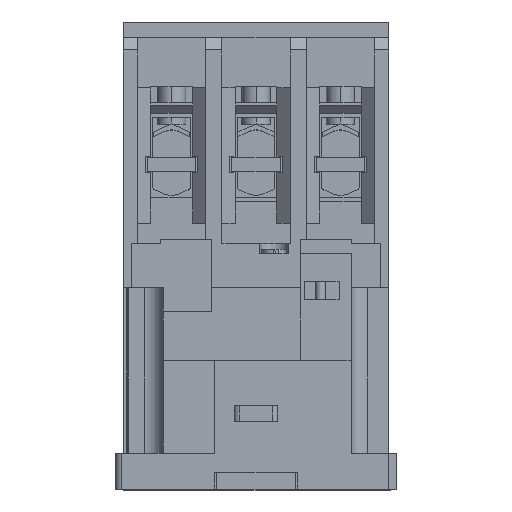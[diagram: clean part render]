
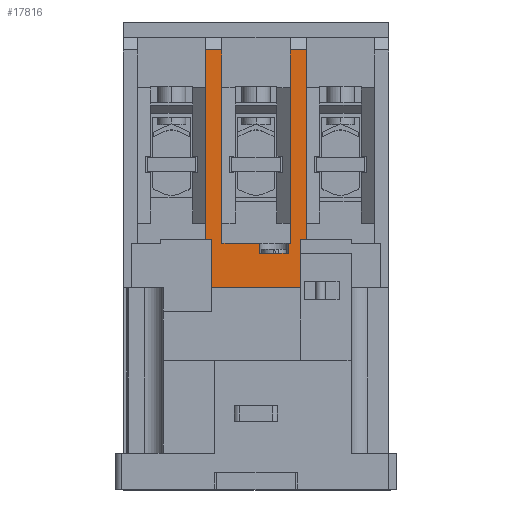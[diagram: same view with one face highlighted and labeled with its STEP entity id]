
A CAD part, top view. The second image highlights one B-rep face of the part: STEP entity #17816.
In plain terms, the highlighted planar face has unit normal (0, 0, 1).
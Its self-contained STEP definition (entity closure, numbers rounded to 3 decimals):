
#491 = VECTOR ( 'NONE', #22229, 1000. ) ;
#565 = DIRECTION ( 'NONE',  ( -1., 0., 0. ) ) ;
#748 = ORIENTED_EDGE ( 'NONE', *, *, #27501, .F. ) ;
#768 = CARTESIAN_POINT ( 'NONE',  ( -12.5, 109., 56. ) ) ;
#1105 = VECTOR ( 'NONE', #34268, 1000. ) ;
#1790 = LINE ( 'NONE', #6053, #23698 ) ;
#2006 = LINE ( 'NONE', #12457, #32690 ) ;
#2010 = CARTESIAN_POINT ( 'NONE',  ( 8.45, 61.05, 56. ) ) ;
#2615 = DIRECTION ( 'NONE',  ( 1., 0., 0. ) ) ;
#2973 = CARTESIAN_POINT ( 'NONE',  ( 33., 62.05, 56. ) ) ;
#3298 = CARTESIAN_POINT ( 'NONE',  ( 11.075, 50., 56. ) ) ;
#3380 = DIRECTION ( 'NONE',  ( 0., 0., -1. ) ) ;
#3402 = ORIENTED_EDGE ( 'NONE', *, *, #18486, .T. ) ;
#3735 = ORIENTED_EDGE ( 'NONE', *, *, #9091, .F. ) ;
#5117 = LINE ( 'NONE', #5719, #20961 ) ;
#5156 = CARTESIAN_POINT ( 'NONE',  ( 0.95, 58.55, 56. ) ) ;
#5169 = EDGE_CURVE ( 'NONE', #13381, #31094, #5664, .T. ) ;
#5664 = LINE ( 'NONE', #31546, #28426 ) ;
#5719 = CARTESIAN_POINT ( 'NONE',  ( -12.5, 99.6, 56. ) ) ;
#6053 = CARTESIAN_POINT ( 'NONE',  ( 12.5, 99.6, 56. ) ) ;
#6112 = ORIENTED_EDGE ( 'NONE', *, *, #12179, .F. ) ;
#6386 = LINE ( 'NONE', #17655, #20393 ) ;
#6713 = VECTOR ( 'NONE', #26412, 1000. ) ;
#7565 = EDGE_CURVE ( 'NONE', #12784, #17913, #27343, .T. ) ;
#7688 = ORIENTED_EDGE ( 'NONE', *, *, #32089, .F. ) ;
#8326 = CARTESIAN_POINT ( 'NONE',  ( -8.45, 61.05, 56. ) ) ;
#8415 = ORIENTED_EDGE ( 'NONE', *, *, #18374, .F. ) ;
#8423 = VERTEX_POINT ( 'NONE', #23104 ) ;
#8707 = CARTESIAN_POINT ( 'NONE',  ( 12.5, 109., 56. ) ) ;
#9091 = EDGE_CURVE ( 'NONE', #31094, #17149, #10231, .T. ) ;
#9122 = DIRECTION ( 'NONE',  ( 0., 1., 0. ) ) ;
#9371 = VECTOR ( 'NONE', #20335, 1000. ) ;
#9500 = FACE_OUTER_BOUND ( 'NONE', #29644, .T. ) ;
#10231 = LINE ( 'NONE', #38207, #25110 ) ;
#10768 = DIRECTION ( 'NONE',  ( 1., 0., 0. ) ) ;
#11030 = VERTEX_POINT ( 'NONE', #31622 ) ;
#11364 = VECTOR ( 'NONE', #35243, 1000. ) ;
#11394 = AXIS2_PLACEMENT_3D ( 'NONE', #21236, #3380, #24234 ) ;
#11476 = CARTESIAN_POINT ( 'NONE',  ( -11.075, 116., 56. ) ) ;
#11655 = CARTESIAN_POINT ( 'NONE',  ( -12.5, 109., 56. ) ) ;
#12179 = EDGE_CURVE ( 'NONE', #17192, #27848, #30454, .T. ) ;
#12457 = CARTESIAN_POINT ( 'NONE',  ( 33., 62.05, 56. ) ) ;
#12784 = VERTEX_POINT ( 'NONE', #8326 ) ;
#13261 = ORIENTED_EDGE ( 'NONE', *, *, #31540, .T. ) ;
#13381 = VERTEX_POINT ( 'NONE', #23113 ) ;
#13678 = VECTOR ( 'NONE', #565, 1000. ) ;
#13841 = VERTEX_POINT ( 'NONE', #3298 ) ;
#14007 = DIRECTION ( 'NONE',  ( 0., 1., 0. ) ) ;
#14499 = ORIENTED_EDGE ( 'NONE', *, *, #36372, .T. ) ;
#14586 = VECTOR ( 'NONE', #2615, 1000. ) ;
#14940 = EDGE_CURVE ( 'NONE', #27005, #21735, #5117, .T. ) ;
#15235 = PLANE ( 'NONE',  #11394 ) ;
#15320 = ORIENTED_EDGE ( 'NONE', *, *, #18101, .T. ) ;
#15693 = EDGE_CURVE ( 'NONE', #11030, #18346, #1790, .T. ) ;
#15739 = CARTESIAN_POINT ( 'NONE',  ( -8.45, 109., 56. ) ) ;
#16013 = VERTEX_POINT ( 'NONE', #34435 ) ;
#16291 = LINE ( 'NONE', #31173, #491 ) ;
#16493 = VERTEX_POINT ( 'NONE', #22383 ) ;
#16507 = CARTESIAN_POINT ( 'NONE',  ( 0.95, 58.55, 56. ) ) ;
#16769 = ORIENTED_EDGE ( 'NONE', *, *, #32698, .T. ) ;
#17000 = VECTOR ( 'NONE', #14007, 1000. ) ;
#17135 = ORIENTED_EDGE ( 'NONE', *, *, #7565, .T. ) ;
#17149 = VERTEX_POINT ( 'NONE', #34604 ) ;
#17186 = EDGE_CURVE ( 'NONE', #27848, #13381, #32803, .T. ) ;
#17192 = VERTEX_POINT ( 'NONE', #5156 ) ;
#17517 = DIRECTION ( 'NONE',  ( 0., 1., 0. ) ) ;
#17655 = CARTESIAN_POINT ( 'NONE',  ( 11.075, 116., 56. ) ) ;
#17802 = DIRECTION ( 'NONE',  ( -1., 0., 0. ) ) ;
#17816 = ADVANCED_FACE ( 'NONE', ( #9500 ), #15235, .F. ) ;
#17913 = VERTEX_POINT ( 'NONE', #15739 ) ;
#18101 = EDGE_CURVE ( 'NONE', #17192, #8423, #23948, .T. ) ;
#18346 = VERTEX_POINT ( 'NONE', #8707 ) ;
#18374 = EDGE_CURVE ( 'NONE', #11030, #16493, #28525, .T. ) ;
#18486 = EDGE_CURVE ( 'NONE', #27005, #16013, #2006, .T. ) ;
#19080 = ORIENTED_EDGE ( 'NONE', *, *, #15693, .T. ) ;
#19999 = CARTESIAN_POINT ( 'NONE',  ( 7.95, 58.55, 56. ) ) ;
#20335 = DIRECTION ( 'NONE',  ( 0., -1., 0. ) ) ;
#20393 = VECTOR ( 'NONE', #20660, 1000. ) ;
#20660 = DIRECTION ( 'NONE',  ( 0., -1., 0. ) ) ;
#20961 = VECTOR ( 'NONE', #26513, 1000. ) ;
#21236 = CARTESIAN_POINT ( 'NONE',  ( 33., 116., 56. ) ) ;
#21451 = DIRECTION ( 'NONE',  ( 1., 0., 0. ) ) ;
#21630 = ORIENTED_EDGE ( 'NONE', *, *, #31686, .T. ) ;
#21735 = VERTEX_POINT ( 'NONE', #768 ) ;
#22093 = ORIENTED_EDGE ( 'NONE', *, *, #17186, .F. ) ;
#22229 = DIRECTION ( 'NONE',  ( 1., 0., 0. ) ) ;
#22383 = CARTESIAN_POINT ( 'NONE',  ( 11.075, 62.05, 56. ) ) ;
#23104 = CARTESIAN_POINT ( 'NONE',  ( 0.95, 61.05, 56. ) ) ;
#23113 = CARTESIAN_POINT ( 'NONE',  ( 7.95, 61.05, 56. ) ) ;
#23453 = CARTESIAN_POINT ( 'NONE',  ( 7.95, 58.55, 56. ) ) ;
#23698 = VECTOR ( 'NONE', #23888, 1000. ) ;
#23888 = DIRECTION ( 'NONE',  ( 0., 1., 0. ) ) ;
#23948 = LINE ( 'NONE', #16507, #1105 ) ;
#24234 = DIRECTION ( 'NONE',  ( -1., 0., 0. ) ) ;
#25110 = VECTOR ( 'NONE', #17517, 1000. ) ;
#26412 = DIRECTION ( 'NONE',  ( 1., 0., 0. ) ) ;
#26513 = DIRECTION ( 'NONE',  ( 0., 1., 0. ) ) ;
#26938 = CARTESIAN_POINT ( 'NONE',  ( -8.45, 99.6, 56. ) ) ;
#27005 = VERTEX_POINT ( 'NONE', #31020 ) ;
#27343 = LINE ( 'NONE', #26938, #29237 ) ;
#27501 = EDGE_CURVE ( 'NONE', #16493, #13841, #6386, .T. ) ;
#27848 = VERTEX_POINT ( 'NONE', #28255 ) ;
#28255 = CARTESIAN_POINT ( 'NONE',  ( 7.95, 58.55, 56. ) ) ;
#28426 = VECTOR ( 'NONE', #10768, 1000. ) ;
#28525 = LINE ( 'NONE', #2973, #35460 ) ;
#29237 = VECTOR ( 'NONE', #9122, 1000. ) ;
#29644 = EDGE_LOOP ( 'NONE', ( #6112, #15320, #7688, #17135, #13261, #32917, #3402, #14499, #16769, #748, #8415, #19080, #21630, #3735, #36604, #22093 ) ) ;
#30454 = LINE ( 'NONE', #23453, #6713 ) ;
#31020 = CARTESIAN_POINT ( 'NONE',  ( -12.5, 62.05, 56. ) ) ;
#31094 = VERTEX_POINT ( 'NONE', #2010 ) ;
#31173 = CARTESIAN_POINT ( 'NONE',  ( 33., 50., 56. ) ) ;
#31204 = LINE ( 'NONE', #11476, #9371 ) ;
#31540 = EDGE_CURVE ( 'NONE', #17913, #21735, #35030, .T. ) ;
#31546 = CARTESIAN_POINT ( 'NONE',  ( -8.45, 61.05, 56. ) ) ;
#31622 = CARTESIAN_POINT ( 'NONE',  ( 12.5, 62.05, 56. ) ) ;
#31686 = EDGE_CURVE ( 'NONE', #18346, #17149, #37290, .T. ) ;
#32089 = EDGE_CURVE ( 'NONE', #12784, #8423, #38184, .T. ) ;
#32690 = VECTOR ( 'NONE', #21451, 1000. ) ;
#32698 = EDGE_CURVE ( 'NONE', #35321, #13841, #16291, .T. ) ;
#32803 = LINE ( 'NONE', #19999, #17000 ) ;
#32917 = ORIENTED_EDGE ( 'NONE', *, *, #14940, .F. ) ;
#33136 = CARTESIAN_POINT ( 'NONE',  ( 8.45, 109., 56. ) ) ;
#34268 = DIRECTION ( 'NONE',  ( 0., 1., 0. ) ) ;
#34435 = CARTESIAN_POINT ( 'NONE',  ( -11.075, 62.05, 56. ) ) ;
#34604 = CARTESIAN_POINT ( 'NONE',  ( 8.45, 109., 56. ) ) ;
#35030 = LINE ( 'NONE', #11655, #11364 ) ;
#35243 = DIRECTION ( 'NONE',  ( -1., 0., 0. ) ) ;
#35321 = VERTEX_POINT ( 'NONE', #38212 ) ;
#35460 = VECTOR ( 'NONE', #17802, 1000. ) ;
#36372 = EDGE_CURVE ( 'NONE', #16013, #35321, #31204, .T. ) ;
#36604 = ORIENTED_EDGE ( 'NONE', *, *, #5169, .F. ) ;
#37290 = LINE ( 'NONE', #33136, #13678 ) ;
#38015 = CARTESIAN_POINT ( 'NONE',  ( -8.45, 61.05, 56. ) ) ;
#38184 = LINE ( 'NONE', #38015, #14586 ) ;
#38207 = CARTESIAN_POINT ( 'NONE',  ( 8.45, 99.6, 56. ) ) ;
#38212 = CARTESIAN_POINT ( 'NONE',  ( -11.075, 50., 56. ) ) ;
